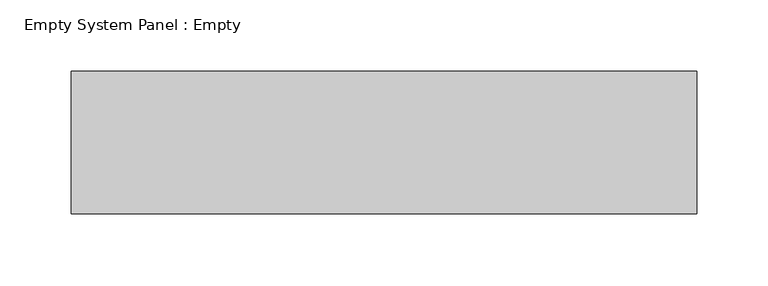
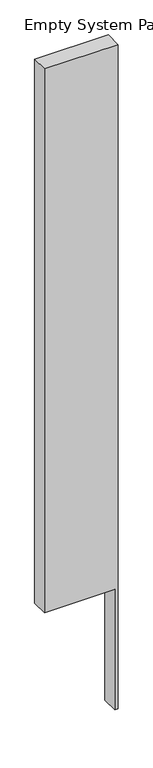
"""IFC4 building model written with IfcOpenShell, lengths in millimetres: plate geometry, Empty System Panel : Empty."""

from ifc_helpers import new_model, si_unit, frame, origin, place, context, project, spatial, polyline, outline, extrude, source, transform, mapped, element, save


def empty_system_panel_empty_de6883da(model_context):
    return source(origin(), model_context, "Body", "SweptSolid", [
        extrude(outline(polyline([(0.0, 200.3953295), (0.0, 219.6046705), (4181.259985, 219.6046705), (4181.259985, -219.6046705), (758.3905656, -219.6046705), (758.3905656, 200.3953295), (0.0, 200.3953295)])), frame((0.0, -50.0, 0.0), z_axis=(0.0, 1.0, 0.0), x_axis=(0.0, 0.0, 1.0)), (0.0, 0.0, 1.0), 100.0),
    ])


if __name__ == "__main__":
    model = new_model("IFC4")
    model_context = context("Model", 3, world=origin())
    ifc_project = project(units=[si_unit("LENGTHUNIT", "METRE", prefix="MILLI")], contexts=[model_context])
    site = spatial("IfcSite", under=ifc_project)
    building = spatial("IfcBuilding", under=site)
    placement = place(None, origin())
    empty_system_panel_empty_shape = empty_system_panel_empty_de6883da(model_context)
    element("IfcPlate", 1, ObjectType="Empty System Panel : Empty", at=placement, inside=building, context=model_context, shape_type="MappedRepresentation", body=[
        mapped(empty_system_panel_empty_shape, transform((0.0, 0.0, 0.0), x_axis=(1.0, 0.0, 0.0), y_axis=(0.0, 1.0, 0.0), z_axis=(0.0, 0.0, 1.0))),
    ])
    save(model, "model.ifc")
